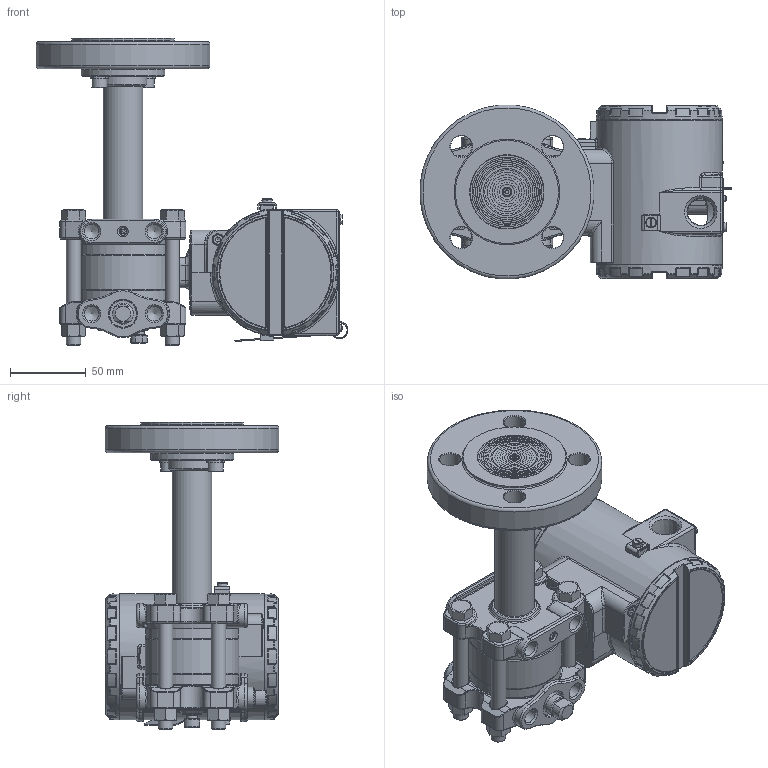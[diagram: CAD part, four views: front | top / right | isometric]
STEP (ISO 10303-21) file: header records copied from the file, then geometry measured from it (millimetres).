
FILE_DESCRIPTION(/* description */ (''),/* implementation_level */ '2;1');
FILE_NAME(/* name */ 'F:\Area\Desenvolvimento_2\Projects\Sensor\projetos\LD30X\montagens 3d - clientes\SELO NIVEL\LD30XL DN25 PN40 RF ref 1-4NPT purga acima.stp',/* time_stamp */ '2023-02-15T10:59:06-03:00',/* author */ ('inventor02'),/* organization */ (''),/* preprocessor_version */ 'ST-DEVELOPER v17',/* originating_system */ 'Autodesk Inventor 2019',/* authorisation */ '');
FILE_SCHEMA (('CONFIG_CONTROL_DESIGN'));
Products named in the file (37): LD30XL DN25 PN40 RF ref 1-4NPT purga acima; 204-0301-L-DN25 PN40 RF purga acima; nivel fx3 com baixa diferencial 1-4NPT purga acima; involucro fx0-3 apos a usinagem final; flange diferencial std purga; 101-C-7484-01 flange selo nivel VR; 201-A-0504-tubo união teste 1; bujao 1-4NPT; Sangria; Porca 3-8 x 16 UNC; Paraf. 3-8 x 16 UNC; adaptação tubo x flange 1pol DN25; 101-B-anel fixação tubo 1pol; ANSI B18.3.1M - M6x1 x 12; DIN 127 - A 6; 101-C-0529-09 flange corrug dn25 pn40; carcaça vazia com tampas e plaqueta; carcaça LD inox sem letras; Subconjunto plaqueta 300; Plaqueta transmissor; Parafuso da Plaqueta; Rebite da Plaqueta; 096-A-0169-03; 101-A-0502-01; Chapa aterramento externo; ISO 1207 - M4 x 8; DIN 915 - M6 x 10; ANSI B18.3.1M - M4x0,7 x 8; Subconjunto tampa com visor aluminio; tampa pintada; VIDRO DO VISOR; oring 41x1 vidro tampa; Trava do vidro da tampa com visor; trava do vidro VH256; Subconjunto tampa sem visor-aluminio; tampa cega 300 pintada p0; 00034775-0
Assembly tree (47 placements, depth 4):
  LD30XL DN25 PN40 RF ref 1-4NPT purga acima
    204-0301-L-DN25 PN40 RF purga acima
      nivel fx3 com baixa diferencial 1-4NPT purga acima
        involucro fx0-3 apos a usinagem final
        flange diferencial std purga
        101-C-7484-01 flange selo nivel VR
        201-A-0504-tubo união teste 1
        DIN 915 - M6 x 10
        bujao 1-4NPT
        Sangria
        Porca 3-8 x 16 UNC  x4
        Paraf. 3-8 x 16 UNC  x4
      adaptação tubo x flange 1pol DN25
        101-B-anel fixação tubo 1pol
        ANSI B18.3.1M - M6x1 x 12  x2
        DIN 127 - A 6  x2
      101-C-0529-09 flange corrug dn25 pn40
    carcaça vazia com tampas e plaqueta
      carcaça LD inox sem letras
      Subconjunto plaqueta 300
        Plaqueta transmissor
        Parafuso da Plaqueta
        Rebite da Plaqueta
        096-A-0169-03
        101-A-0502-01
      Chapa aterramento externo
      ISO 1207 - M4 x 8
      DIN 915 - M6 x 10
      ANSI B18.3.1M - M4x0,7 x 8  x2
      Subconjunto tampa com visor aluminio
        tampa pintada
        VIDRO DO VISOR
        oring 41x1 vidro tampa
        Trava do vidro da tampa com visor
        trava do vidro VH256
        00034775-0
      Subconjunto tampa sem visor-aluminio
        tampa cega 300 pintada p0
        00034775-0
Bounding box: 205.56 x 114.56 x 202.3 mm (x, y, z)
Volume: 779669.7 mm3; surface area: 279059.5 mm2
Topology: 40 solids, 40 shells, 2653 faces, 6366 edges, 3746 vertices
Faces by surface type: bspline 666, cylinder 641, plane 532, torus 445, cone 243, sphere 126
Full cylindrical faces by diameter (mm): 2 x4, 2.1 x2, 2.459 x5, 2.5 x1, 2.642 x1, 2.7 x1, 2.8 x1, 3 x4, 3.242 x4, 3.5 x5, 3.571 x1, 4 x5, 4.3 x1, 4.4 x1, 4.917 x4, 5.5 x3, 6 x6, 6.5 x2, 6.647 x1, 7 x5, 7.087 x2, 7.6 x2, 7.798 x4, 8 x1, 8.7 x2, 9.525 x4, 9.728 x6, 10 x2, 10.5 x8, 10.719 x2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
Entity records: 91912 total; most frequent: CARTESIAN_POINT 34199, ORIENTED_EDGE 11914, DIRECTION 11844, EDGE_CURVE 5957, AXIS2_PLACEMENT_3D 5217, VERTEX_POINT 3552, CIRCLE 3082, EDGE_LOOP 2669
